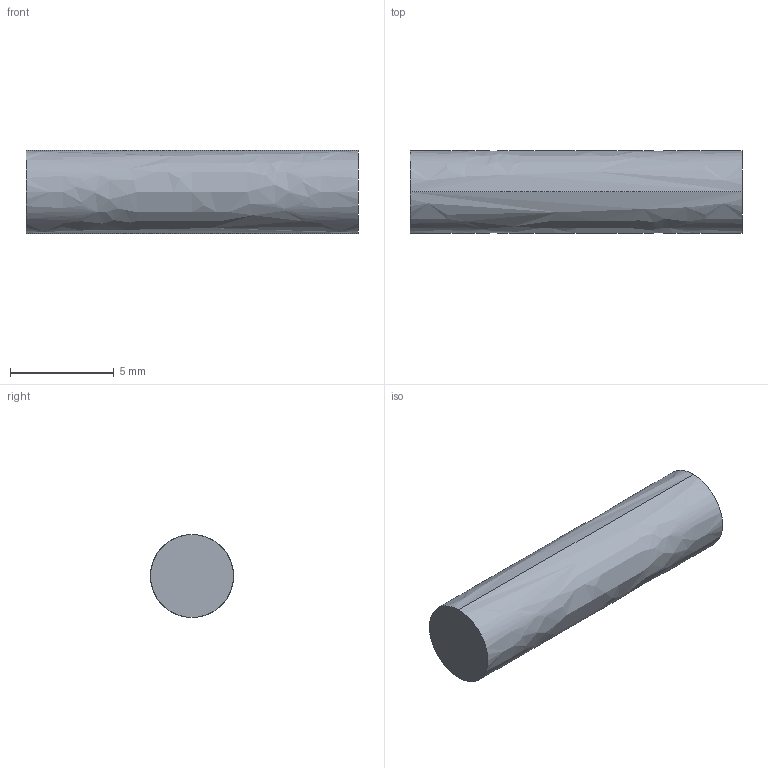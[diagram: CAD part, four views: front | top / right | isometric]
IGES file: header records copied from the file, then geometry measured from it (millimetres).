
Start section:  PTC IGES file: C:\Documents and Settings\audibk\personal\guns\walther\W alther_PPK\iges\stift-hahn.igs
Global section: file name: C:\Documents and Settings\audibk\personal\guns\walther\Walther_PPK\iges\stift-hahn.igs; native system: Pro/ENGINEER by Parametric Technology Corporation; preprocessor: 2002180; author: audibk; organization: Unknown; date: 030409.105321; units: millimetre
Bounding box: 16 x 4 x 4 mm (x, y, z)
Volume: 201.5 mm3; surface area: 226.4 mm2
Topology: 1 solids, 1 shells, 4 faces, 6 edges, 4 vertices
Faces by surface type: bspline 4
